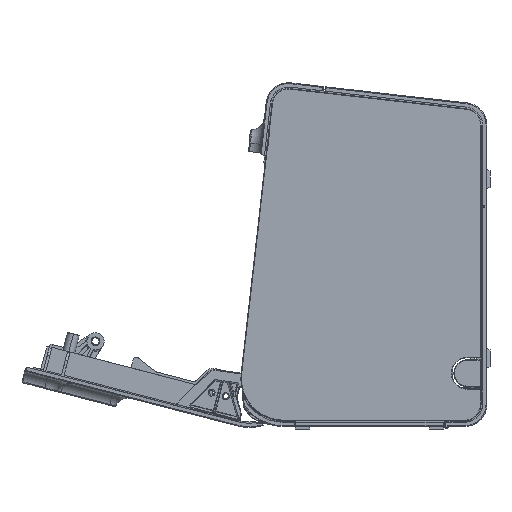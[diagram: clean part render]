
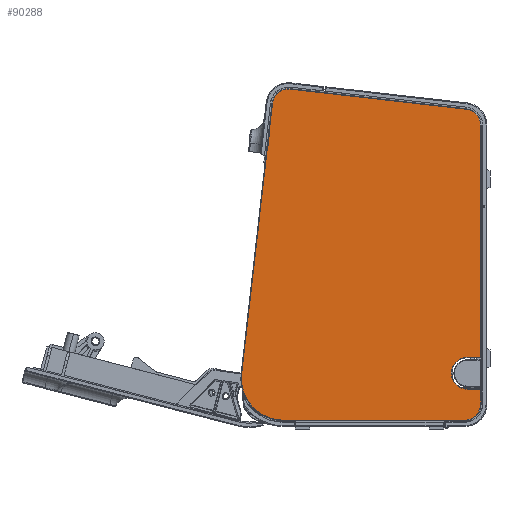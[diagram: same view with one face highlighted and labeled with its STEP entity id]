
A CAD part, left-side view. The second image highlights one B-rep face of the part: STEP entity #90288.
In plain terms, the highlighted planar face has unit normal (-1, 0, 0).
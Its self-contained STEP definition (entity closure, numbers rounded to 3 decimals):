
#67734=CARTESIAN_POINT('',(-26.9,45.245,100.2));
#67735=DIRECTION('',(1.,0.,0.));
#67736=DIRECTION('',(0.,-0.994,-0.113));
#67737=AXIS2_PLACEMENT_3D('',#67734,#67735,#67736);
#67739=DIRECTION('',(0.,0.113,-0.994));
#67740=VECTOR('',#67739,7.649);
#67741=CARTESIAN_POINT('',(-26.9,43.982,107.755));
#67742=LINE('',#67741,#67740);
#67743=CARTESIAN_POINT('',(-26.9,44.38,107.8));
#67744=DIRECTION('',(1.,0.,0.));
#67745=DIRECTION('',(0.,-0.613,0.79));
#67746=AXIS2_PLACEMENT_3D('',#67743,#67744,#67745);
#67748=CARTESIAN_POINT('',(-26.9,32.955,124.082));
#67749=DIRECTION('',(1.,0.,0.));
#67750=DIRECTION('',(0.,0.994,0.113));
#67751=AXIS2_PLACEMENT_3D('',#67748,#67749,#67750);
#67753=DIRECTION('',(0.,-0.994,-0.113));
#67754=VECTOR('',#67753,103.219);
#67755=CARTESIAN_POINT('',(-26.9,31.902,133.322));
#67756=LINE('',#67755,#67754);
#67757=CARTESIAN_POINT('',(-26.9,-69.6,112.397));
#67758=DIRECTION('',(1.,0.,0.));
#67759=DIRECTION('',(0.,-0.113,0.994));
#67760=AXIS2_PLACEMENT_3D('',#67757,#67758,#67759);
#67762=DIRECTION('',(0.,0.,-1.));
#67763=VECTOR('',#67762,135.097);
#67764=CARTESIAN_POINT('',(-26.9,-78.9,112.397));
#67765=LINE('',#67764,#67763);
#67766=DIRECTION('',(0.,1.,0.));
#67767=VECTOR('',#67766,7.7);
#67768=CARTESIAN_POINT('',(-26.9,-78.9,-22.7));
#67769=LINE('',#67768,#67767);
#67770=CARTESIAN_POINT('',(-26.9,-71.2,-32.));
#67771=DIRECTION('',(-1.,0.,0.));
#67772=DIRECTION('',(0.,0.,1.));
#67773=AXIS2_PLACEMENT_3D('',#67770,#67771,#67772);
#67775=DIRECTION('',(0.,-1.,0.));
#67776=VECTOR('',#67775,7.7);
#67777=CARTESIAN_POINT('',(-26.9,-71.2,-41.3));
#67778=LINE('',#67777,#67776);
#67779=DIRECTION('',(0.,0.,1.));
#67780=VECTOR('',#67779,8.7);
#67781=CARTESIAN_POINT('',(-26.9,-78.9,-50.));
#67782=LINE('',#67781,#67780);
#67783=CARTESIAN_POINT('',(-26.9,-69.6,-50.));
#67784=DIRECTION('',(-1.,0.,0.));
#67785=DIRECTION('',(0.,0.,-1.));
#67786=AXIS2_PLACEMENT_3D('',#67783,#67784,#67785);
#67788=DIRECTION('',(0.,-1.,0.));
#67789=VECTOR('',#67788,105.583);
#67790=CARTESIAN_POINT('',(-26.9,35.983,-59.3));
#67791=LINE('',#67790,#67789);
#67792=CARTESIAN_POINT('',(-26.9,35.983,-35.));
#67793=DIRECTION('',(-1.,0.,0.));
#67794=DIRECTION('',(0.,0.994,0.113));
#67795=AXIS2_PLACEMENT_3D('',#67792,#67793,#67794);
#78470=CARTESIAN_POINT('',(-26.9,45.078,99.837));
#78472=DIRECTION('',(0.,0.113,-0.994));
#78473=VECTOR('',#78472,132.941);
#78474=CARTESIAN_POINT('',(-26.9,45.078,99.837));
#78475=LINE('',#78474,#78473);
#78612=DIRECTION('',(0.,0.113,-0.994));
#78613=VECTOR('',#78612,17.129);
#78614=CARTESIAN_POINT('',(-26.9,42.195,125.135));
#78615=LINE('',#78614,#78613);
#87594=CARTESIAN_POINT('',(-26.9,-78.9,-50.));
#87595=CARTESIAN_POINT('',(-26.9,-78.9,-41.3));
#87596=VERTEX_POINT('',#87594);
#87597=VERTEX_POINT('',#87595);
#87598=CARTESIAN_POINT('',(-26.9,-69.6,-59.3));
#87599=VERTEX_POINT('',#87598);
#87602=CARTESIAN_POINT('',(-26.9,35.983,-59.3));
#87603=VERTEX_POINT('',#87602);
#87606=CARTESIAN_POINT('',(-26.9,60.127,-32.249));
#87607=VERTEX_POINT('',#87606);
#87654=CARTESIAN_POINT('',(-26.9,42.195,125.135));
#87655=CARTESIAN_POINT('',(-26.9,31.902,133.322));
#87656=VERTEX_POINT('',#87654);
#87657=VERTEX_POINT('',#87655);
#87660=CARTESIAN_POINT('',(-26.9,-70.653,121.637));
#87661=VERTEX_POINT('',#87660);
#87664=CARTESIAN_POINT('',(-26.9,-78.9,112.397));
#87665=VERTEX_POINT('',#87664);
#87666=CARTESIAN_POINT('',(-26.9,-78.9,-22.7));
#87667=VERTEX_POINT('',#87666);
#87676=CARTESIAN_POINT('',(-26.9,-71.2,-41.3));
#87677=VERTEX_POINT('',#87676);
#87684=CARTESIAN_POINT('',(-26.9,-71.2,-22.7));
#87685=VERTEX_POINT('',#87684);
#88028=VERTEX_POINT('',#78470);
#88030=CARTESIAN_POINT('',(-26.9,44.848,100.155));
#88031=VERTEX_POINT('',#88030);
#88034=CARTESIAN_POINT('',(-26.9,43.982,107.755));
#88035=VERTEX_POINT('',#88034);
#88038=CARTESIAN_POINT('',(-26.9,44.134,108.116));
#88039=VERTEX_POINT('',#88038);
#90249=CARTESIAN_POINT('',(-26.9,-82.6,124.));
#90250=DIRECTION('',(1.,0.,0.));
#90251=DIRECTION('',(0.,0.,-1.));
#90252=AXIS2_PLACEMENT_3D('',#90249,#90250,#90251);
#90253=PLANE('',#90252);
#90255=ORIENTED_EDGE('',*,*,#90254,.F.);
#90257=ORIENTED_EDGE('',*,*,#90256,.F.);
#90259=ORIENTED_EDGE('',*,*,#90258,.F.);
#90261=ORIENTED_EDGE('',*,*,#90260,.F.);
#90263=ORIENTED_EDGE('',*,*,#90262,.T.);
#90265=ORIENTED_EDGE('',*,*,#90264,.T.);
#90267=ORIENTED_EDGE('',*,*,#90266,.T.);
#90269=ORIENTED_EDGE('',*,*,#90268,.T.);
#90271=ORIENTED_EDGE('',*,*,#90270,.T.);
#90273=ORIENTED_EDGE('',*,*,#90272,.T.);
#90275=ORIENTED_EDGE('',*,*,#90274,.T.);
#90277=ORIENTED_EDGE('',*,*,#90276,.F.);
#90279=ORIENTED_EDGE('',*,*,#90278,.F.);
#90281=ORIENTED_EDGE('',*,*,#90280,.F.);
#90283=ORIENTED_EDGE('',*,*,#90282,.F.);
#90285=ORIENTED_EDGE('',*,*,#90284,.F.);
#90286=EDGE_LOOP('',(#90255,#90257,#90259,#90261,#90263,#90265,#90267,#90269,
#90271,#90273,#90275,#90277,#90279,#90281,#90283,#90285));
#90287=FACE_OUTER_BOUND('',#90286,.F.);
#67738=CIRCLE('',#67737,0.4);
#67747=CIRCLE('',#67746,0.4);
#67752=CIRCLE('',#67751,9.3);
#67761=CIRCLE('',#67760,9.3);
#67774=CIRCLE('',#67773,9.3);
#67787=CIRCLE('',#67786,9.3);
#67796=CIRCLE('',#67795,24.3);
#90254=EDGE_CURVE('',#88031,#88028,#67738,.T.);
#90256=EDGE_CURVE('',#88035,#88031,#67742,.T.);
#90258=EDGE_CURVE('',#88039,#88035,#67747,.T.);
#90260=EDGE_CURVE('',#87656,#88039,#78615,.T.);
#90262=EDGE_CURVE('',#87656,#87657,#67752,.T.);
#90264=EDGE_CURVE('',#87657,#87661,#67756,.T.);
#90266=EDGE_CURVE('',#87661,#87665,#67761,.T.);
#90268=EDGE_CURVE('',#87665,#87667,#67765,.T.);
#90270=EDGE_CURVE('',#87667,#87685,#67769,.T.);
#90272=EDGE_CURVE('',#87685,#87677,#67774,.T.);
#90274=EDGE_CURVE('',#87677,#87597,#67778,.T.);
#90276=EDGE_CURVE('',#87596,#87597,#67782,.T.);
#90278=EDGE_CURVE('',#87599,#87596,#67787,.T.);
#90280=EDGE_CURVE('',#87603,#87599,#67791,.T.);
#90282=EDGE_CURVE('',#87607,#87603,#67796,.T.);
#90284=EDGE_CURVE('',#88028,#87607,#78475,.T.);
#90288=ADVANCED_FACE('',(#90287),#90253,.F.);
